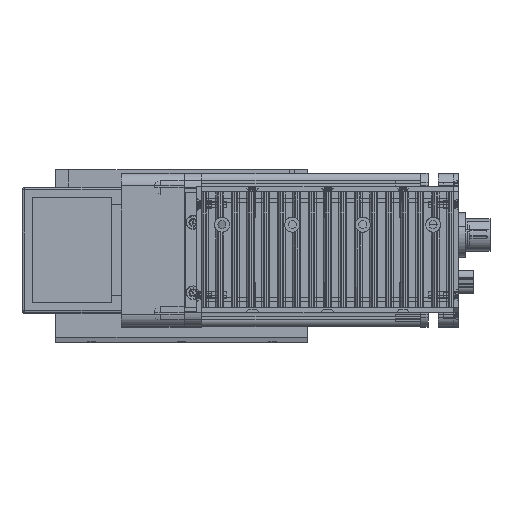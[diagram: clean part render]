
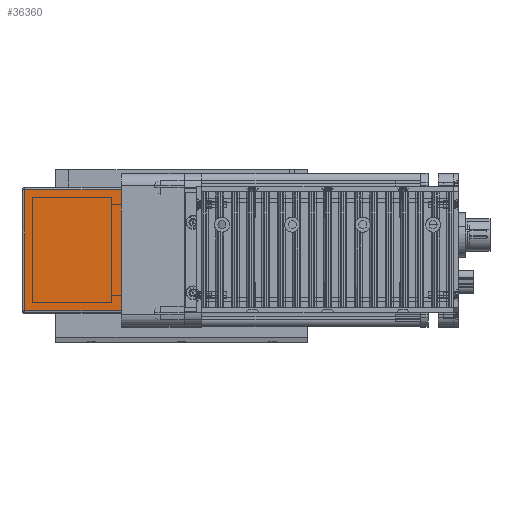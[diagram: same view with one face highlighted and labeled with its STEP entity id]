
A CAD part, top view. The second image highlights one B-rep face of the part: STEP entity #36360.
In plain terms, the highlighted planar face has unit normal (0, 0, 1) as drawn and (1, 0, 0) by its records, which use the part's own axes.
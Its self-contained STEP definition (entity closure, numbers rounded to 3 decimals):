
#583 = VERTEX_POINT ( 'NONE', #3050 ) ;
#616 = EDGE_CURVE ( 'NONE', #617, #583, #3091, .T. ) ;
#617 = VERTEX_POINT ( 'NONE', #3013 ) ;
#622 = VERTEX_POINT ( 'NONE', #3140 ) ;
#1751 = EDGE_CURVE ( 'NONE', #1819, #622, #4022, .T. ) ;
#1819 = VERTEX_POINT ( 'NONE', #4122 ) ;
#3013 = CARTESIAN_POINT ( 'NONE',  ( 62., 24., 38.5 ) ) ;
#3020 = DIRECTION ( 'NONE',  ( 0., 0., -1. ) ) ;
#3050 = CARTESIAN_POINT ( 'NONE',  ( 62., 24., 0. ) ) ;
#3087 = CARTESIAN_POINT ( 'NONE',  ( 62., 24., 39.5 ) ) ;
#3091 = LINE ( 'NONE', #3087, #3157 ) ;
#3140 = CARTESIAN_POINT ( 'NONE',  ( 62., -24., 38.5 ) ) ;
#3157 = VECTOR ( 'NONE', #3020, 1000. ) ;
#4005 = VECTOR ( 'NONE', #4016, 1000. ) ;
#4016 = DIRECTION ( 'NONE',  ( 0., 0., 1. ) ) ;
#4017 = CARTESIAN_POINT ( 'NONE',  ( 62., -24., 39.5 ) ) ;
#4022 = LINE ( 'NONE', #4017, #4005 ) ;
#4122 = CARTESIAN_POINT ( 'NONE',  ( 62., -24., 0. ) ) ;
#19675 = DIRECTION ( 'NONE',  ( 0., 1., 0. ) ) ;
#19687 = CARTESIAN_POINT ( 'NONE',  ( 62., -25., 0. ) ) ;
#19688 = LINE ( 'NONE', #19687, #19689 ) ;
#19689 = VECTOR ( 'NONE', #19675, 1000. ) ;
#19715 = DIRECTION ( 'NONE',  ( 0., -1., 0. ) ) ;
#19716 = DIRECTION ( 'NONE',  ( -1., 0., 0. ) ) ;
#19717 = CARTESIAN_POINT ( 'NONE',  ( 62., 25., 39.5 ) ) ;
#19718 = AXIS2_PLACEMENT_3D ( 'NONE', #19717, #19716, #19715 ) ;
#19719 = PLANE ( 'NONE',  #19718 ) ;
#19723 = FACE_OUTER_BOUND ( 'NONE', #38229, .T. ) ;
#22873 = CARTESIAN_POINT ( 'NONE',  ( 62., -25., 38.5 ) ) ;
#22874 = LINE ( 'NONE', #22873, #22919 ) ;
#22918 = DIRECTION ( 'NONE',  ( 0., 1., 0. ) ) ;
#22919 = VECTOR ( 'NONE', #22918, 1000. ) ;
#36336 = EDGE_CURVE ( 'NONE', #1819, #583, #19688, .T. ) ;
#36340 = ORIENTED_EDGE ( 'NONE', *, *, #36336, .T. ) ;
#36360 = ADVANCED_FACE ( 'NONE', ( #19723 ), #19719, .F. ) ;
#38200 = ORIENTED_EDGE ( 'NONE', *, *, #1751, .F. ) ;
#38229 = EDGE_LOOP ( 'NONE', ( #38200, #36340, #38258, #38267 ) ) ;
#38258 = ORIENTED_EDGE ( 'NONE', *, *, #616, .F. ) ;
#38265 = EDGE_CURVE ( 'NONE', #622, #617, #22874, .T. ) ;
#38267 = ORIENTED_EDGE ( 'NONE', *, *, #38265, .F. ) ;
